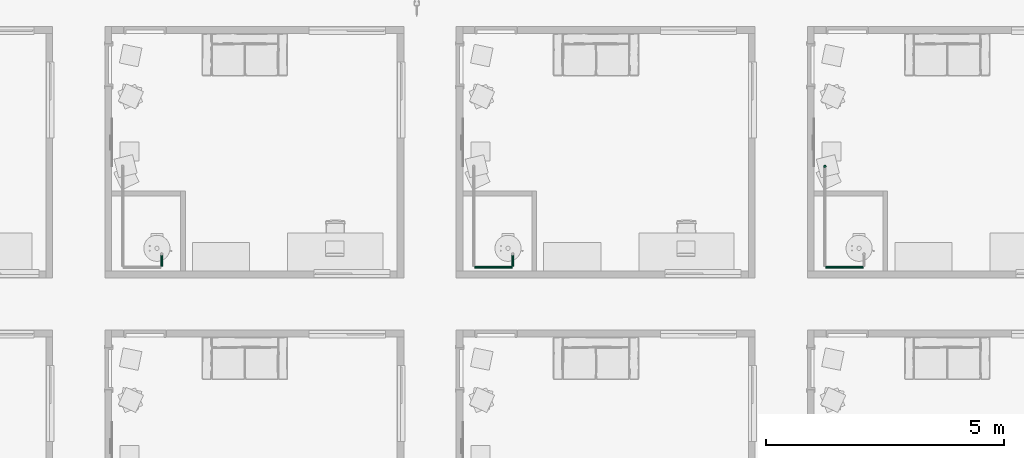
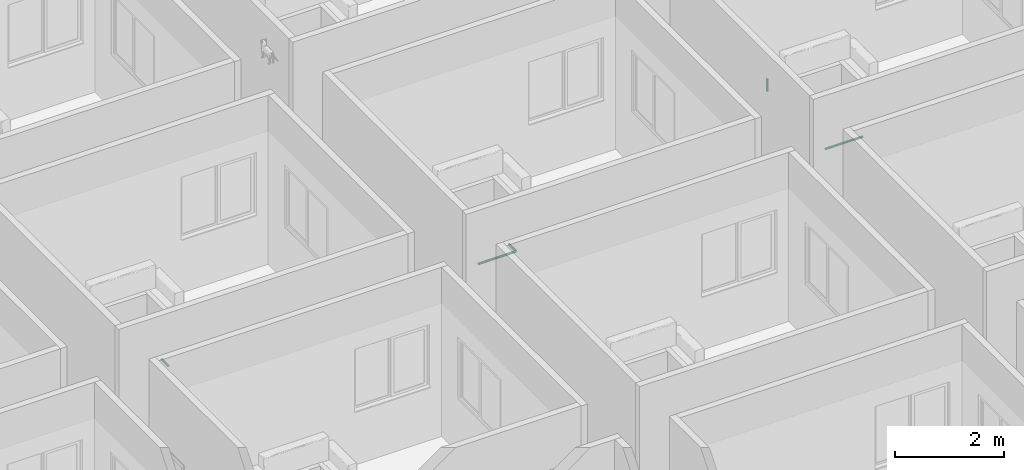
# One storey, part 46 of 69: 5 pipe segments.
"""IFC4 building model written with IfcOpenShell, lengths in centimetres."""

from ifc_helpers import new_model, entity, si_unit, converted_unit, derived_unit, direction, frame, origin, place, context, subcontext, project, spatial, arc, indexed_curve, outline, extrude, type_object, element, save


model = new_model("IFC4")

# Units and contexts
model_context = context("Model", 3, precision=0.001, world=origin(), true_north=direction((6.123233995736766e-17, 1.0)))
body_context = subcontext(model_context, "Body", "Model", "MODEL_VIEW")
ifc_project = project(units=[si_unit("LENGTHUNIT", "METRE", prefix="CENTI"), si_unit("AREAUNIT", "SQUARE_METRE"), si_unit("VOLUMEUNIT", "CUBIC_METRE"), derived_unit("THERMALTRANSMITTANCEUNIT", [(si_unit("MASSUNIT", "GRAM", prefix="KILO"), 1), (si_unit("THERMODYNAMICTEMPERATUREUNIT", "KELVIN"), -1), (si_unit("TIMEUNIT", "SECOND"), -3)]), converted_unit("PLANEANGLEUNIT", "DEGREE", entity("IfcPlaneAngleMeasure", 0.017453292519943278), si_unit("PLANEANGLEUNIT", "RADIAN"), dimensions=[0, 0, 0, 0, 0, 0, 0]), derived_unit("MASSDENSITYUNIT", [(si_unit("MASSUNIT", "GRAM", prefix="KILO"), 1), (si_unit("LENGTHUNIT", "METRE"), -3)]), derived_unit("VAPORPERMEABILITYUNIT", [(si_unit("LENGTHUNIT", "METRE"), -1), (si_unit("TIMEUNIT", "SECOND"), 1)]), derived_unit("USERDEFINED", [(si_unit("MASSUNIT", "GRAM", prefix="KILO"), 1), (si_unit("TIMEUNIT", "SECOND"), -3), (si_unit("LENGTHUNIT", "METRE"), 3), (si_unit("ELECTRICCURRENTUNIT", "AMPERE"), -2)]), derived_unit("SPECIFICHEATCAPACITYUNIT", [(si_unit("THERMODYNAMICTEMPERATUREUNIT", "KELVIN"), -1), (si_unit("LENGTHUNIT", "METRE"), 2), (si_unit("TIMEUNIT", "SECOND"), -2)]), derived_unit("THERMALCONDUCTANCEUNIT", [(si_unit("MASSUNIT", "GRAM", prefix="KILO"), 1), (si_unit("THERMODYNAMICTEMPERATUREUNIT", "KELVIN"), -1), (si_unit("TIMEUNIT", "SECOND"), -3), (si_unit("LENGTHUNIT", "METRE"), 1)]), si_unit("PRESSUREUNIT", "PASCAL"), derived_unit("MODULUSOFELASTICITYUNIT", [(si_unit("MASSUNIT", "GRAM", prefix="KILO"), 1), (si_unit("LENGTHUNIT", "METRE"), -1), (si_unit("TIMEUNIT", "SECOND"), -2)]), derived_unit("THERMALEXPANSIONCOEFFICIENTUNIT", [(si_unit("THERMODYNAMICTEMPERATUREUNIT", "KELVIN"), -1)])], contexts=[model_context])

# Site, building, storey
site_placement = place(None, origin())
site = spatial("IfcSite", under=ifc_project, at=site_placement, Name="Default", CompositionType="ELEMENT")
building_placement = place(site_placement, origin())
building = spatial("IfcBuilding", under=site, at=building_placement, Name="IDS Escape Game Building", CompositionType="ELEMENT")
storey_placement = place(building_placement, origin())
storey = spatial("IfcBuildingStorey", under=building, at=storey_placement, Name="00_Ground Floor", CompositionType="ELEMENT", Elevation=0.0)

# Pipe segments
pipe_segment_type = type_object("IfcPipeSegmentType", Name="Pipe Types:Piping Aluminum", PredefinedType="NOTDEFINED")
pipe_segment_1_placement = place(storey_placement, origin())
element("IfcPipeSegment", 1, at=pipe_segment_1_placement, inside=storey, type_object=pipe_segment_type, Name="Pipe Types:Piping Aluminum", ObjectType="Pipe Types:Piping Aluminum", PredefinedType="NOTDEFINED", context=body_context, shape_type="SweptSolid", body=[
    extrude(outline(indexed_curve([(2.4129999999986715, -2.7071678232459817e-14), (1.7062486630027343, 1.706248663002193), (1.2994405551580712e-12, 2.412999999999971), (-1.7062486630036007, 1.7062486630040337), (-2.413000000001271, -2.7071678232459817e-14), (-1.7062486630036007, -1.7062486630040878), (1.2994405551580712e-12, -2.413000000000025), (1.7062486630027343, -1.706248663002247)], segments=[arc(1, 2, 3), arc(3, 4, 5), arc(5, 6, 7), arc(7, 8, 1)], self_intersect=False)), frame((1588.1500000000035, 1936.3648279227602, 242.0), z_axis=(0.0, 1.0, 0.0), x_axis=(-1.0, 0.0, 0.0)), (0.0, 0.0, 1.0), 25.435172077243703),
])
pipe_segment_2_placement = place(storey_placement, origin())
element("IfcPipeSegment", 2, at=pipe_segment_2_placement, inside=storey, type_object=pipe_segment_type, Name="Pipe Types:Piping Aluminum", ObjectType="Pipe Types:Piping Aluminum", PredefinedType="NOTDEFINED", context=body_context, shape_type="SweptSolid", body=[
    extrude(outline(indexed_curve([(2.412999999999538, -2.165734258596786e-13), (1.7062486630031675, 1.7062486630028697), (4.331468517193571e-13, 2.4130000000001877), (-1.706248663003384, 1.7062486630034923), (-2.4130000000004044, -1.6243006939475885e-13), (-1.7062486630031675, -1.706248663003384), (4.3314685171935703e-13, -2.412999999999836), (1.7062486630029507, -1.7062486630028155)], segments=[arc(1, 2, 3), arc(3, 4, 5), arc(5, 6, 7), arc(7, 8, 1)], self_intersect=False)), frame((2245.1467168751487, 1935.2648279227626, 242.0), z_axis=(1.0, 0.0, 0.0), x_axis=(0.0, 1.0, 0.0)), (0.0, 0.0, 1.0), 79.90328312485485),
])
pipe_segment_3_placement = place(storey_placement, origin())
element("IfcPipeSegment", 3, at=pipe_segment_3_placement, inside=storey, type_object=pipe_segment_type, Name="Pipe Types:Piping Aluminum", ObjectType="Pipe Types:Piping Aluminum", PredefinedType="NOTDEFINED", context=body_context, shape_type="SweptSolid", body=[
    extrude(outline(indexed_curve([(2.4129999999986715, -2.7071678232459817e-14), (1.7062486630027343, 1.7062486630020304), (1.7325874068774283e-12, 2.412999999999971), (-1.7062486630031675, 1.7062486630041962), (-2.413000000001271, -2.7071678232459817e-14), (-1.7062486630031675, -1.7062486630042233), (1.7325874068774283e-12, -2.413000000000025), (1.7062486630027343, -1.7062486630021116)], segments=[arc(1, 2, 3), arc(3, 4, 5), arc(5, 6, 7), arc(7, 8, 1)], self_intersect=False)), frame((2326.1500000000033, 1936.36482792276, 242.0), z_axis=(0.0, 1.0, 0.0), x_axis=(-1.0, 0.0, 0.0)), (0.0, 0.0, 1.0), 25.435172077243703),
])
pipe_segment_4_placement = place(storey_placement, origin())
element("IfcPipeSegment", 4, at=pipe_segment_4_placement, inside=storey, type_object=pipe_segment_type, Name="Pipe Types:Piping Aluminum", ObjectType="Pipe Types:Piping Aluminum", PredefinedType="NOTDEFINED", context=body_context, shape_type="SweptSolid", body=[
    extrude(outline(indexed_curve([(2.412999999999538, -2.165734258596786e-13), (1.7062486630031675, 1.7062486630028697), (4.331468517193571e-13, 2.4130000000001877), (-1.706248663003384, 1.7062486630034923), (-2.4130000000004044, -1.6243006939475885e-13), (-1.7062486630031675, -1.706248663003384), (4.3314685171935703e-13, -2.412999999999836), (1.7062486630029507, -1.7062486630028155)], segments=[arc(1, 2, 3), arc(3, 4, 5), arc(5, 6, 7), arc(7, 8, 1)], self_intersect=False)), frame((2983.146716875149, 1935.2648279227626, 242.0), z_axis=(1.0, 0.0, 0.0), x_axis=(0.0, 1.0, 0.0)), (0.0, 0.0, 1.0), 79.90328312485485),
])
pipe_segment_5_placement = place(storey_placement, origin())
element("IfcPipeSegment", 5, at=pipe_segment_5_placement, inside=storey, type_object=pipe_segment_type, Name="Pipe Types:Piping Aluminum", ObjectType="Pipe Types:Piping Aluminum", PredefinedType="NOTDEFINED", context=body_context, shape_type="SweptSolid", body=[
    extrude(outline(indexed_curve([(2.412999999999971, 0.0), (1.7062486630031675, 1.7062486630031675), (0.0, 2.412999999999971), (-1.7062486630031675, 1.7062486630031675), (-2.412999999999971, 0.0), (-1.7062486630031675, -1.7062486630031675), (0.0, -2.412999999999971), (1.7062486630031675, -1.7062486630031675)], segments=[arc(1, 2, 3), arc(3, 4, 5), arc(5, 6, 7), arc(7, 8, 1)], self_intersect=False)), frame((2982.0467168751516, 2147.26482792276, 244.0999999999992), z_axis=(0.0, 0.0, 1.0), x_axis=(-1.0, 0.0, 0.0)), (0.0, 0.0, 1.0), 27.90000000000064),
])

save(model, "model.ifc")
